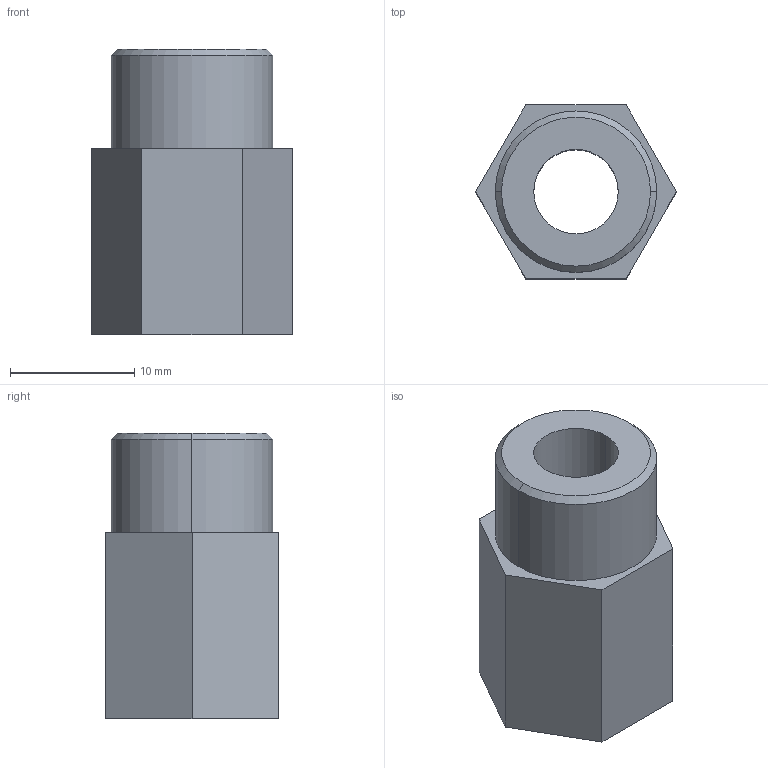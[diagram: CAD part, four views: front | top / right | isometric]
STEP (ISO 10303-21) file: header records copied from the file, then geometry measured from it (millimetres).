
FILE_DESCRIPTION (( 'STEP AP214' ), '1' );
FILE_NAME ('VM-G14M-M8F.STEP', '2023-03-07T10:29:40', ( 'Windows User' ), ( 'P R C' ), 'SwSTEP 2.0', 'SolidWorks 2019', '' );
FILE_SCHEMA (( 'AUTOMOTIVE_DESIGN' ));
Length unit declared in the file: millimetre
Products named in the file (1): VM-G14M-M8F
Bounding box: 16.17 x 14 x 23 mm (x, y, z)
Volume: 2767.7 mm3; surface area: 1800.1 mm2
Topology: 1 solids, 1 shells, 15 faces, 34 edges, 22 vertices
Faces by surface type: plane 9, cylinder 4, cone 2
Entity records: 482 total; most frequent: DIRECTION 76, CARTESIAN_POINT 72, ORIENTED_EDGE 68, EDGE_CURVE 34, AXIS2_PLACEMENT_3D 26, LINE 24, VECTOR 24, VERTEX_POINT 22
